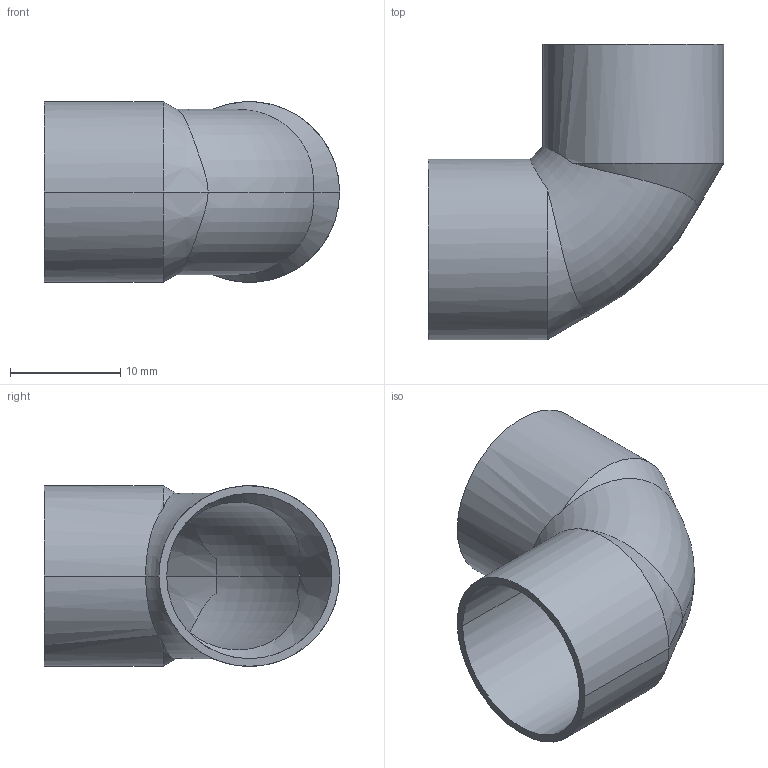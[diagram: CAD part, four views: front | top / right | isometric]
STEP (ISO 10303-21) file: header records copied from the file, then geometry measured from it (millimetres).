
FILE_DESCRIPTION((''),'2;1');
FILE_NAME('G:\SANHA-TERNAT\Technik\Deckel\UUU\Producttek\1509015\1509015(0).stp','2007-07-24T15:06:46',('vdvijverd'),(''),'Autodesk Inventor 8','Autodesk Inventor 8','');
FILE_SCHEMA(('AUTOMOTIVE_DESIGN { 1 0 10303 214 1 1 1 1 }'));
Length unit declared in the file: millimetre
Products named in the file (1): 1509015(0)
Bounding box: 26.8 x 26.8 x 16.4 mm (x, y, z)
Volume: 1125.1 mm3; surface area: 3184.2 mm2
Topology: 1 solids, 1 shells, 24 faces, 61 edges, 39 vertices
Faces by surface type: bspline 10, torus 4, cone 4, cylinder 4, plane 2
Entity records: 1045 total; most frequent: CARTESIAN_POINT 499, ORIENTED_EDGE 122, DIRECTION 92, EDGE_CURVE 61, AXIS2_PLACEMENT_3D 40, VERTEX_POINT 39, EDGE_LOOP 26, CIRCLE 25
